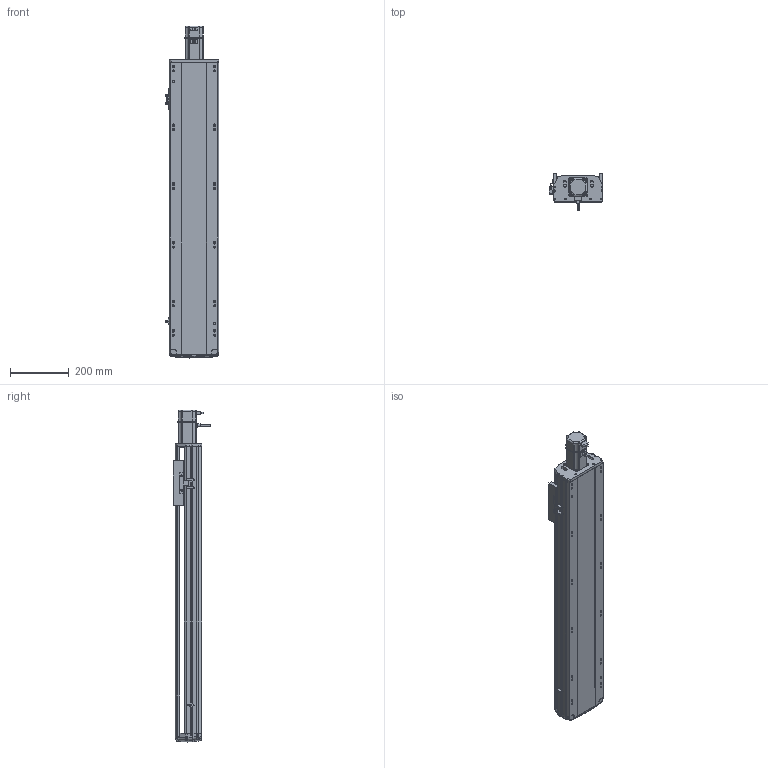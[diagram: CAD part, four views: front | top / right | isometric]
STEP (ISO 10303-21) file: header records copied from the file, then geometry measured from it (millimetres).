
FILE_DESCRIPTION (( 'STEP AP214' ), '1' );
FILE_NAME ('RTH17-XX-750-E-M40-C4（方程式）.STEP', '2025-10-24T05:41:52', ( '' ), ( '' ), 'SwSTEP 2.0', 'SolidWorks 2018', '' );
FILE_SCHEMA (( 'AUTOMOTIVE_DESIGN' ));
Length unit declared in the file: millimetre
Products named in the file (9): N_M40^RTH17-XX-XX-E-M40-C4（方程式）; RTH17-XX-750-E-M40-C4（方程式）; N_RTH17-E-011底座^RTH17-XX-XX-E-M40-C4（方程式）; N_OMRON EE-SX672 換覜ん^RTH17-XX-XX-E-M40-C4ㄗ源最宒ㄘ; N_RTH-BL-012 感应片(外置)^RTH17-XX-XX-E-M40-C4（方程式）; N_RTH17-E-007上盖^RTH17-XX-XX-E-M40-C4（方程式）; N_RTH17-E-004丝杆螺母连接座^RTH17-XX-XX-E-M40-C4（方程式）; N_RTH17-GY-001P^RTH17-XX-XX-E-M40-C4（方程式）; N_RTH17-E-008-P40电机板^RTH17-XX-XX-E-M40-C4（方程式）
Assembly tree (10 placements, depth 2):
  RTH17-XX-750-E-M40-C4（方程式）
    N_RTH17-E-011底座^RTH17-XX-XX-E-M40-C4（方程式）
    N_RTH17-E-007上盖^RTH17-XX-XX-E-M40-C4（方程式）
    N_RTH17-E-008-P40电机板^RTH17-XX-XX-E-M40-C4（方程式）
    N_OMRON EE-SX672 換覜ん^RTH17-XX-XX-E-M40-C4ㄗ源最宒ㄘ  x3
    N_RTH-BL-012 感应片(外置)^RTH17-XX-XX-E-M40-C4（方程式）
    N_RTH17-E-004丝杆螺母连接座^RTH17-XX-XX-E-M40-C4（方程式）
    N_RTH17-GY-001P^RTH17-XX-XX-E-M40-C4（方程式）
    N_M40^RTH17-XX-XX-E-M40-C4（方程式）
Bounding box: 183.5 x 127 x 1130.69 mm (x, y, z)
Volume: 8110552.9 mm3; surface area: 1093010.7 mm2
Topology: 9 solids, 11 shells, 1681 faces, 4711 edges, 3074 vertices
Faces by surface type: plane 829, cylinder 485, bspline 330, cone 28, torus 9
Entity records: 49565 total; most frequent: CARTESIAN_POINT 19778, ORIENTED_EDGE 6446, DIRECTION 5355, EDGE_CURVE 3227, VERTEX_POINT 2110, VECTOR 1795, LINE 1795, AXIS2_PLACEMENT_3D 1780
